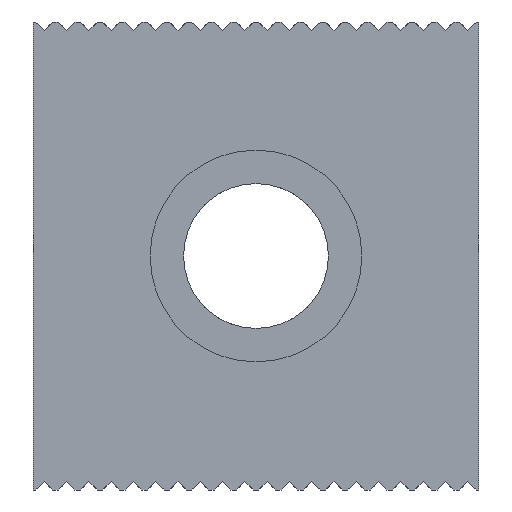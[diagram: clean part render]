
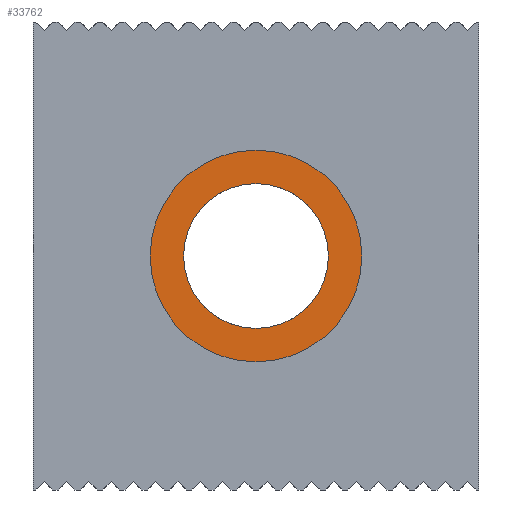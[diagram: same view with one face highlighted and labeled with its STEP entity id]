
A CAD part, front view. The second image highlights one B-rep face of the part: STEP entity #33762.
In plain terms, the highlighted planar face has unit normal (0, -1, 0).
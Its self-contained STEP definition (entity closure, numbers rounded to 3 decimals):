
#331=CARTESIAN_POINT('',(20.,8.,0.));
#332=DIRECTION('',(0.,-1.,0.));
#333=DIRECTION('',(-1.,0.,0.));
#334=AXIS2_PLACEMENT_3D('',#331,#332,#333);
#340=CARTESIAN_POINT('',(20.,8.,0.));
#341=DIRECTION('',(0.,1.,0.));
#342=DIRECTION('',(-1.,0.,0.));
#343=AXIS2_PLACEMENT_3D('',#340,#341,#342);
#349=CARTESIAN_POINT('',(20.,8.,0.));
#350=DIRECTION('',(0.,1.,0.));
#351=DIRECTION('',(-1.,0.,0.));
#352=AXIS2_PLACEMENT_3D('',#349,#350,#351);
#354=CARTESIAN_POINT('',(20.,8.,0.));
#355=DIRECTION('',(0.,-1.,0.));
#356=DIRECTION('',(-1.,0.,0.));
#357=AXIS2_PLACEMENT_3D('',#354,#355,#356);
#26529=CARTESIAN_POINT('',(13.5,8.,0.));
#26530=CARTESIAN_POINT('',(26.5,8.,0.));
#26531=VERTEX_POINT('',#26529);
#26532=VERTEX_POINT('',#26530);
#26533=CARTESIAN_POINT('',(10.5,8.,0.));
#26534=CARTESIAN_POINT('',(29.5,8.,0.));
#26535=VERTEX_POINT('',#26533);
#26536=VERTEX_POINT('',#26534);
#33747=CARTESIAN_POINT('',(20.,8.,0.));
#33748=DIRECTION('',(0.,-1.,0.));
#33749=DIRECTION('',(-1.,0.,0.));
#33750=AXIS2_PLACEMENT_3D('',#33747,#33748,#33749);
#33751=PLANE('',#33750);
#33752=ORIENTED_EDGE('',*,*,#33727,.F.);
#33753=ORIENTED_EDGE('',*,*,#33741,.T.);
#33754=EDGE_LOOP('',(#33752,#33753));
#33755=FACE_OUTER_BOUND('',#33754,.F.);
#33757=ORIENTED_EDGE('',*,*,#33756,.F.);
#33759=ORIENTED_EDGE('',*,*,#33758,.T.);
#33760=EDGE_LOOP('',(#33757,#33759));
#33761=FACE_BOUND('',#33760,.F.);
#33762=ADVANCED_FACE('',(#33755,#33761),#33751,.T.);
#335=CIRCLE('',#334,9.5);
#344=CIRCLE('',#343,9.5);
#353=CIRCLE('',#352,6.5);
#358=CIRCLE('',#357,6.5);
#33727=EDGE_CURVE('',#26535,#26536,#335,.T.);
#33741=EDGE_CURVE('',#26535,#26536,#344,.T.);
#33756=EDGE_CURVE('',#26531,#26532,#353,.T.);
#33758=EDGE_CURVE('',#26531,#26532,#358,.T.);
